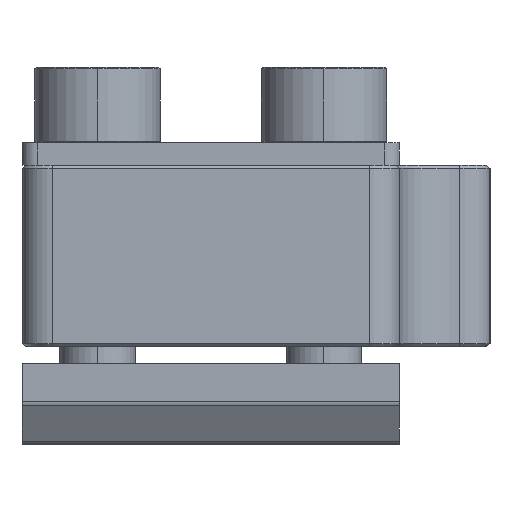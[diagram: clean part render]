
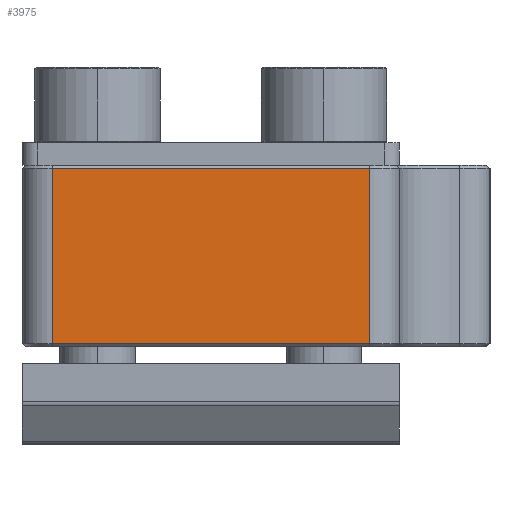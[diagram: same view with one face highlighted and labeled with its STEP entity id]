
A CAD part, left-side view. The second image highlights one B-rep face of the part: STEP entity #3975.
In plain terms, the highlighted planar face has unit normal (-1, 0, 0).
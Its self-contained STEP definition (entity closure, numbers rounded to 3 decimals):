
#119 = DIRECTION ( 'NONE',  ( 0., 0., -1. ) ) ;
#215 = LINE ( 'NONE', #2754, #4342 ) ;
#334 = CARTESIAN_POINT ( 'NONE',  ( -92.5, 10.5, -5.8 ) ) ;
#794 = CARTESIAN_POINT ( 'NONE',  ( -92.5, -10.5, -5.8 ) ) ;
#906 = EDGE_LOOP ( 'NONE', ( #1798, #2101, #4750, #2217 ) ) ;
#1064 = PLANE ( 'NONE',  #2175 ) ;
#1798 = ORIENTED_EDGE ( 'NONE', *, *, #4989, .T. ) ;
#1910 = LINE ( 'NONE', #5353, #3454 ) ;
#1981 = VERTEX_POINT ( 'NONE', #3558 ) ;
#2101 = ORIENTED_EDGE ( 'NONE', *, *, #3638, .T. ) ;
#2175 = AXIS2_PLACEMENT_3D ( 'NONE', #4611, #2191, #119 ) ;
#2191 = DIRECTION ( 'NONE',  ( 1., 0., 0. ) ) ;
#2217 = ORIENTED_EDGE ( 'NONE', *, *, #2650, .T. ) ;
#2376 = CARTESIAN_POINT ( 'NONE',  ( -92.5, -10.5, -5.8 ) ) ;
#2650 = EDGE_CURVE ( 'NONE', #1981, #2746, #1910, .T. ) ;
#2657 = FACE_OUTER_BOUND ( 'NONE', #906, .T. ) ;
#2737 = VERTEX_POINT ( 'NONE', #2376 ) ;
#2746 = VERTEX_POINT ( 'NONE', #6531 ) ;
#2754 = CARTESIAN_POINT ( 'NONE',  ( -92.5, 10.5, 6. ) ) ;
#2934 = EDGE_CURVE ( 'NONE', #1981, #2737, #4157, .T. ) ;
#3026 = VECTOR ( 'NONE', #5418, 1000. ) ;
#3454 = VECTOR ( 'NONE', #3939, 1000. ) ;
#3558 = CARTESIAN_POINT ( 'NONE',  ( -92.5, -10.5, 5.8 ) ) ;
#3638 = EDGE_CURVE ( 'NONE', #3641, #2737, #4891, .T. ) ;
#3641 = VERTEX_POINT ( 'NONE', #334 ) ;
#3939 = DIRECTION ( 'NONE',  ( 0., 1., 0. ) ) ;
#3975 = ADVANCED_FACE ( 'NONE', ( #2657 ), #1064, .F. ) ;
#4157 = LINE ( 'NONE', #6159, #6006 ) ;
#4342 = VECTOR ( 'NONE', #4770, 1000. ) ;
#4611 = CARTESIAN_POINT ( 'NONE',  ( -92.5, 10.5, 6. ) ) ;
#4750 = ORIENTED_EDGE ( 'NONE', *, *, #2934, .F. ) ;
#4770 = DIRECTION ( 'NONE',  ( 0., 0., -1. ) ) ;
#4891 = LINE ( 'NONE', #794, #3026 ) ;
#4989 = EDGE_CURVE ( 'NONE', #2746, #3641, #215, .T. ) ;
#5120 = DIRECTION ( 'NONE',  ( 0., 0., -1. ) ) ;
#5353 = CARTESIAN_POINT ( 'NONE',  ( -92.5, 10.5, 5.8 ) ) ;
#5418 = DIRECTION ( 'NONE',  ( 0., -1., 0. ) ) ;
#6006 = VECTOR ( 'NONE', #5120, 1000. ) ;
#6159 = CARTESIAN_POINT ( 'NONE',  ( -92.5, -10.5, 6. ) ) ;
#6531 = CARTESIAN_POINT ( 'NONE',  ( -92.5, 10.5, 5.8 ) ) ;
